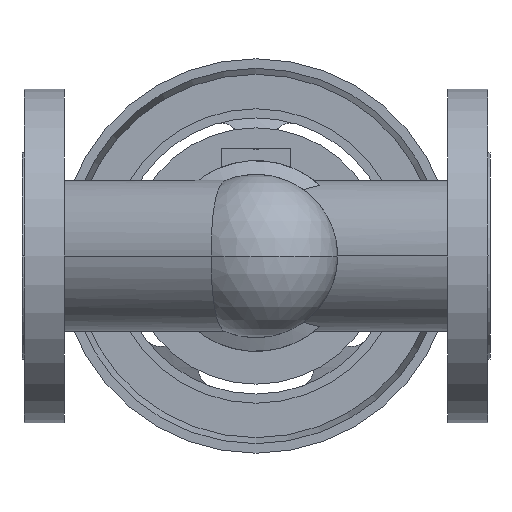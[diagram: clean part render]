
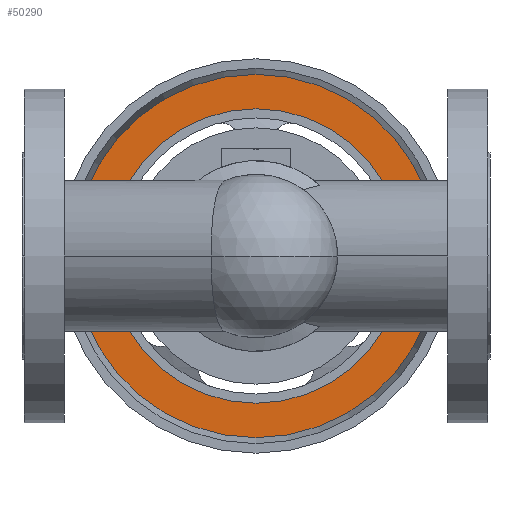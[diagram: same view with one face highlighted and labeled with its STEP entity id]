
A CAD part, front view. The second image highlights one B-rep face of the part: STEP entity #50290.
In plain terms, the highlighted planar face has unit normal (0, -1, 0).
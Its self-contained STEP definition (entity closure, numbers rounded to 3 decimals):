
#49740=CARTESIAN_POINT('',(316.198,488.9,0.));
#49750=VERTEX_POINT('',#49740);
#49780=CARTESIAN_POINT('',(178.,488.9,0.));
#49790=DIRECTION('',(0.,1.,0.));
#49800=DIRECTION('',(-1.,0.,0.));
#49810=AXIS2_PLACEMENT_3D('',#49780,#49790,#49800);
#49820=CIRCLE('',#49810,138.198);
#49830=CARTESIAN_POINT('',(39.802,488.9,0.));
#49840=VERTEX_POINT('',#49830);
#49850=EDGE_CURVE('',#49840,#49750,#49820,.T.);
#50040=CARTESIAN_POINT('',(52.901,488.9,0.))
;
#50050=DIRECTION('',(0.,-1.,0.));
#50060=DIRECTION('',(1.,0.,0.));
#50070=AXIS2_PLACEMENT_3D('',#50040,#50050,#50060);
#50080=PLANE('',#50070);
#50090=EDGE_CURVE('',#49750,#49840,#49820,.T.);
#50100=ORIENTED_EDGE('',*,*,#50090,.F.);
#50110=ORIENTED_EDGE('',*,*,#49850,.F.);
#50120=EDGE_LOOP('',(#50110,#50100));
#50130=FACE_OUTER_BOUND('',#50120,.T.);
#50140=CARTESIAN_POINT('',(178.,488.9,0.));
#50150=DIRECTION('',(0.,1.,0.));
#50160=DIRECTION('',(-1.,0.,0.));
#50170=AXIS2_PLACEMENT_3D('',#50140,#50150,#50160);
#50180=CIRCLE('',#50170,112.);
#50190=CARTESIAN_POINT('',(290.,488.9,0.));
#50200=VERTEX_POINT('',#50190);
#50210=CARTESIAN_POINT('',(66.,488.9,0.));
#50220=VERTEX_POINT('',#50210);
#50230=EDGE_CURVE('',#50200,#50220,#50180,.T.);
#50240=ORIENTED_EDGE('',*,*,#50230,.T.);
#50250=EDGE_CURVE('',#50220,#50200,#50180,.T.);
#50260=ORIENTED_EDGE('',*,*,#50250,.T.);
#50270=EDGE_LOOP('',(#50260,#50240));
#50280=FACE_BOUND('',#50270,.T.);
#50290=ADVANCED_FACE('',(#50130,#50280),#50080,.T.);
